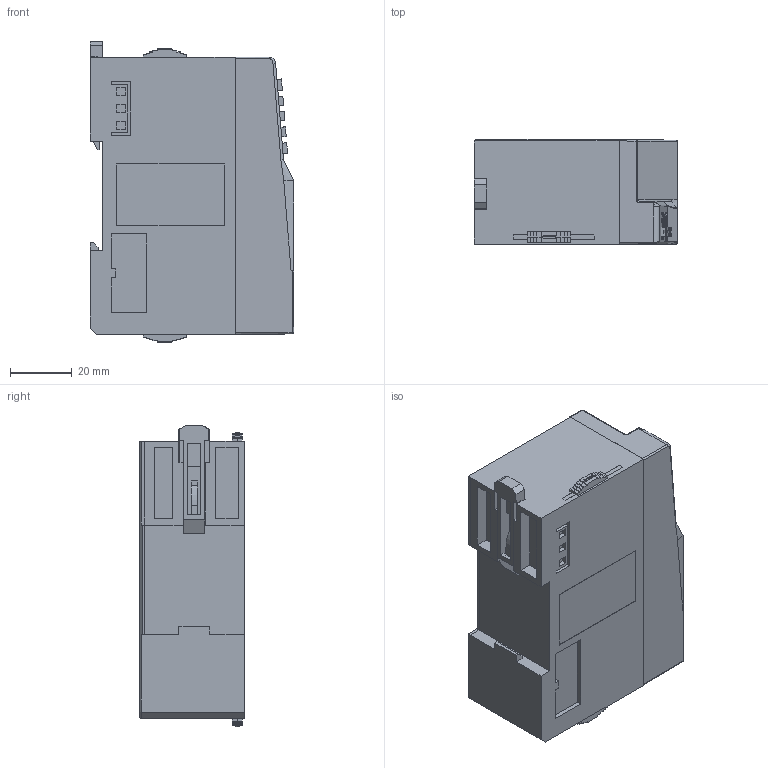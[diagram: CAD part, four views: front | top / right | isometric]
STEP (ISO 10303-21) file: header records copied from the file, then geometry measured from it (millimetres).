
FILE_DESCRIPTION(/* description */ (''),/* implementation_level */ '2;1');
FILE_NAME(/* name */ 'EX-DN适配器.stp',/* time_stamp */ '2022-01-17T10:20:49+08:00',/* author */ (''),/* organization */ (''),/* preprocessor_version */ 'ST-DEVELOPER v16',/* originating_system */ 'SIEMENS PLM Software NX 10.0',/* authorisation */ '');
FILE_SCHEMA (('AP203_CONFIGURATION_CONTROLLED_3D_DESIGN_OF_MECHANICAL_PARTS_AND_ASSEMBLIES_MIM_LF { 1 0 10303 403 2 1 2}'));
Products named in the file (1): 73494B50E7E6tyvz
Bounding box: 66 x 34 x 97.82 mm (x, y, z)
Volume: 171692.5 mm3; surface area: 39664.8 mm2
Topology: 18 solids, 18 shells, 2604 faces, 7185 edges, 4717 vertices
Faces by surface type: plane 1732, cylinder 548, bspline 257, cone 56, torus 6, sphere 5
Full cylindrical faces by diameter (mm): 0.6 x3, 1.2 x5, 2.5 x2, 2.8 x5, 3.2 x3, 3.3 x3, 6.05 x3, 6.15 x3
Entity records: 92573 total; most frequent: CARTESIAN_POINT 26878, ORIENTED_EDGE 14286, DIRECTION 12680, EDGE_CURVE 7143, LINE 5170, VECTOR 5170, VERTEX_POINT 4711, AXIS2_PLACEMENT_3D 3755
